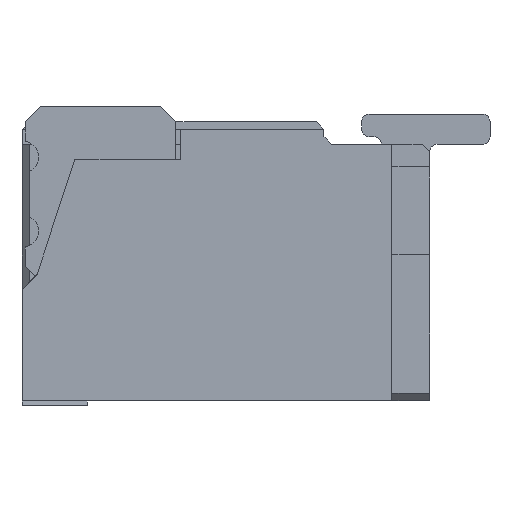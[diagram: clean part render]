
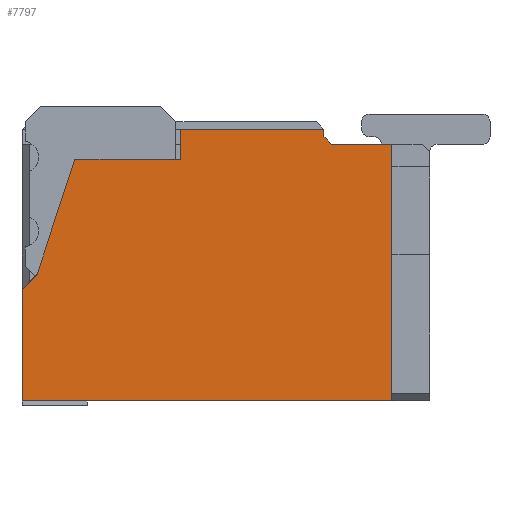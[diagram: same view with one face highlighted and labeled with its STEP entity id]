
A CAD part, left-side view. The second image highlights one B-rep face of the part: STEP entity #7797.
In plain terms, the highlighted planar face has unit normal (-1, 0, 0).
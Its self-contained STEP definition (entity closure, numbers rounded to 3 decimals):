
#1=DIRECTION('',(0.,-0.707,0.707));
#2=VECTOR('',#1,0.141);
#3=CARTESIAN_POINT('',(0.,0.,0.74));
#4=LINE('',#3,#2);
#5=DIRECTION('',(0.,-0.312,0.95));
#6=VECTOR('',#5,0.8);
#7=CARTESIAN_POINT('',(0.,-0.1,0.84));
#8=LINE('',#7,#6);
#9=DIRECTION('',(0.,-1.,0.));
#10=VECTOR('',#9,0.7);
#11=CARTESIAN_POINT('',(0.,-0.35,1.6));
#12=LINE('',#11,#10);
#13=DIRECTION('',(0.,-1.,0.));
#14=VECTOR('',#13,0.95);
#15=CARTESIAN_POINT('',(0.,-1.05,1.8));
#16=LINE('',#15,#14);
#17=DIRECTION('',(0.,-0.707,-0.707));
#18=VECTOR('',#17,0.071);
#19=CARTESIAN_POINT('',(0.,-2.,1.75));
#20=LINE('',#19,#18);
#21=DIRECTION('',(0.,0.,-1.));
#22=VECTOR('',#21,1.7);
#23=CARTESIAN_POINT('',(0.,-2.45,1.7));
#24=LINE('',#23,#22);
#25=DIRECTION('',(0.,1.,0.));
#26=VECTOR('',#25,2.45);
#27=CARTESIAN_POINT('',(0.,-2.45,0.));
#28=LINE('',#27,#26);
#29=DIRECTION('',(0.,0.,1.));
#30=VECTOR('',#29,0.74);
#31=CARTESIAN_POINT('',(0.,0.,0.));
#32=LINE('',#31,#30);
#75=DIRECTION('',(0.,0.,-1.));
#76=VECTOR('',#75,0.2);
#77=CARTESIAN_POINT('',(0.,-1.05,1.8));
#78=LINE('',#77,#76);
#882=DIRECTION('',(0.,1.,0.));
#883=VECTOR('',#882,0.4);
#884=CARTESIAN_POINT('',(0.,-2.45,1.7));
#885=LINE('',#884,#883);
#3175=DIRECTION('',(0.,0.,1.));
#3176=VECTOR('',#3175,0.05);
#3177=CARTESIAN_POINT('',(0.,-2.,1.75));
#3178=LINE('',#3177,#3176);
#5953=CARTESIAN_POINT('',(0.,0.,0.74));
#5954=CARTESIAN_POINT('',(0.,-0.1,0.84));
#5955=VERTEX_POINT('',#5953);
#5956=VERTEX_POINT('',#5954);
#5957=CARTESIAN_POINT('',(0.,-0.35,1.6));
#5958=VERTEX_POINT('',#5957);
#5959=CARTESIAN_POINT('',(0.,-1.05,1.6));
#5960=VERTEX_POINT('',#5959);
#5961=CARTESIAN_POINT('',(0.,-1.05,1.8));
#5962=VERTEX_POINT('',#5961);
#5963=CARTESIAN_POINT('',(0.,-2.,1.8));
#5964=VERTEX_POINT('',#5963);
#5965=CARTESIAN_POINT('',(0.,-2.,1.75));
#5966=VERTEX_POINT('',#5965);
#5967=CARTESIAN_POINT('',(0.,-2.05,1.7));
#5968=VERTEX_POINT('',#5967);
#5969=CARTESIAN_POINT('',(0.,-2.45,1.7));
#5970=VERTEX_POINT('',#5969);
#5971=CARTESIAN_POINT('',(0.,-2.45,0.));
#5972=VERTEX_POINT('',#5971);
#5973=CARTESIAN_POINT('',(0.,0.,0.));
#5974=VERTEX_POINT('',#5973);
#7768=CARTESIAN_POINT('',(0.,0.,0.));
#7769=DIRECTION('',(1.,0.,0.));
#7770=DIRECTION('',(0.,-1.,0.));
#7771=AXIS2_PLACEMENT_3D('',#7768,#7769,#7770);
#7772=PLANE('',#7771);
#7774=ORIENTED_EDGE('',*,*,#7773,.T.);
#7776=ORIENTED_EDGE('',*,*,#7775,.T.);
#7778=ORIENTED_EDGE('',*,*,#7777,.T.);
#7780=ORIENTED_EDGE('',*,*,#7779,.F.);
#7782=ORIENTED_EDGE('',*,*,#7781,.T.);
#7784=ORIENTED_EDGE('',*,*,#7783,.F.);
#7786=ORIENTED_EDGE('',*,*,#7785,.T.);
#7788=ORIENTED_EDGE('',*,*,#7787,.F.);
#7790=ORIENTED_EDGE('',*,*,#7789,.T.);
#7792=ORIENTED_EDGE('',*,*,#7791,.T.);
#7794=ORIENTED_EDGE('',*,*,#7793,.T.);
#7795=EDGE_LOOP('',(#7774,#7776,#7778,#7780,#7782,#7784,#7786,#7788,#7790,#7792,
#7794));
#7796=FACE_OUTER_BOUND('',#7795,.F.);
#7773=EDGE_CURVE('',#5955,#5956,#4,.T.);
#7775=EDGE_CURVE('',#5956,#5958,#8,.T.);
#7777=EDGE_CURVE('',#5958,#5960,#12,.T.);
#7779=EDGE_CURVE('',#5962,#5960,#78,.T.);
#7781=EDGE_CURVE('',#5962,#5964,#16,.T.);
#7783=EDGE_CURVE('',#5966,#5964,#3178,.T.);
#7785=EDGE_CURVE('',#5966,#5968,#20,.T.);
#7787=EDGE_CURVE('',#5970,#5968,#885,.T.);
#7789=EDGE_CURVE('',#5970,#5972,#24,.T.);
#7791=EDGE_CURVE('',#5972,#5974,#28,.T.);
#7793=EDGE_CURVE('',#5974,#5955,#32,.T.);
#7797=ADVANCED_FACE('',(#7796),#7772,.F.);
